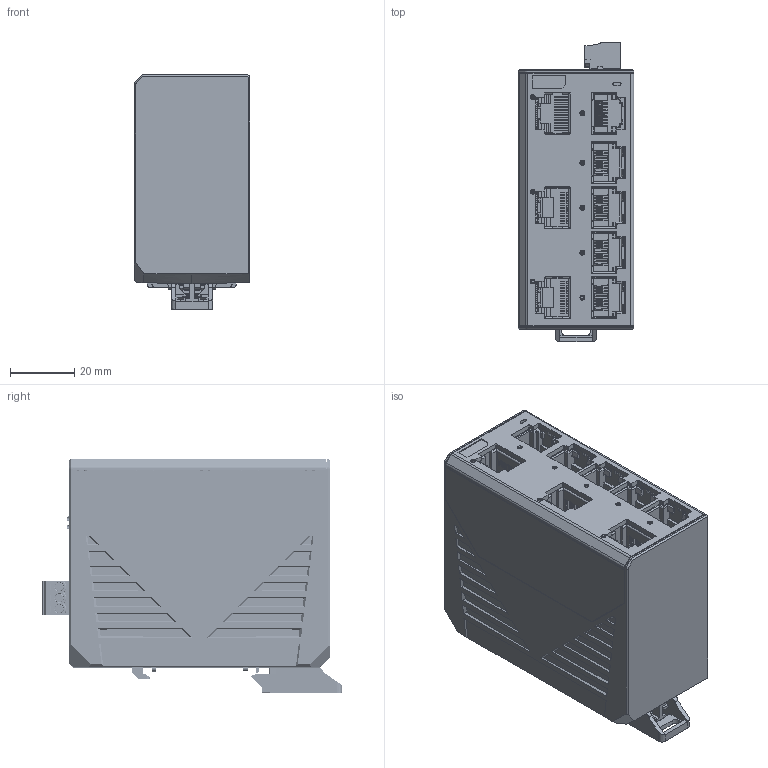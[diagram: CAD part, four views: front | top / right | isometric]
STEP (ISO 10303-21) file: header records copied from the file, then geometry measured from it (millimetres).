
FILE_DESCRIPTION((''),'2;1');
FILE_NAME('DIM_EDS-2008-ELP','2019-12-25T18:38:36',('Dacia_Yao'),('PTC'),'CREO PARAMETRIC BY PTC INC, 2018020','CREO PARAMETRIC BY PTC INC, 2018020','');
FILE_SCHEMA(('CONFIG_CONTROL_DESIGN'));
Products named in the file (1): DIM_EDS-2008-ELP
Bounding box: 36 x 93.25 x 73 mm (x, y, z)
Volume: 42113.4 mm3; surface area: 66556.3 mm2
Topology: 23 solids, 26 shells, 9489 faces, 28225 edges, 18606 vertices
Faces by surface type: plane 7855, cylinder 1295, cone 194, torus 66, bspline 38, extrusion 34, sphere 7
Entity records: 325245 total; most frequent: CARTESIAN_POINT 70153, ORIENTED_EDGE 56434, DIRECTION 48495, EDGE_CURVE 28221, VECTOR 24371, LINE 24337, VERTEX_POINT 18606, AXIS2_PLACEMENT_3D 12062
